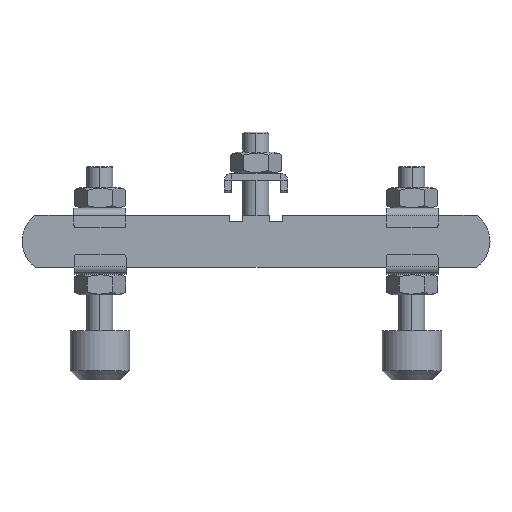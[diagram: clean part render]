
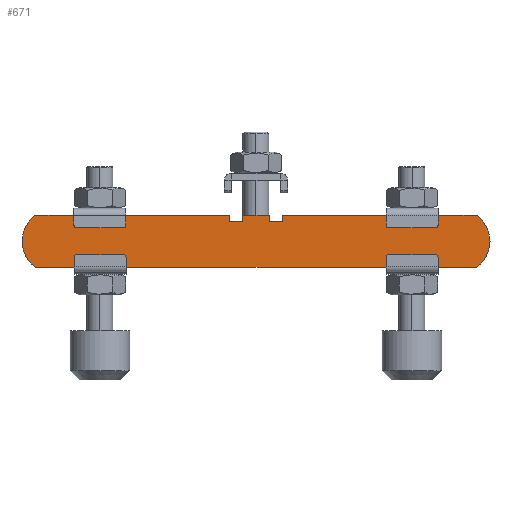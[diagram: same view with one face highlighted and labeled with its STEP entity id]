
A CAD part, top view. The second image highlights one B-rep face of the part: STEP entity #671.
In plain terms, the highlighted planar face has unit normal (0, 0, 1).
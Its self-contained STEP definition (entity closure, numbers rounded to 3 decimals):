
#67 = VERTEX_POINT ( 'NONE', #1707 ) ;
#79 = CARTESIAN_POINT ( 'NONE',  ( -84.633, -10., 0. ) ) ;
#141 = DIRECTION ( 'NONE',  ( -1., 0., 0. ) ) ;
#209 = VECTOR ( 'NONE', #343, 1000. ) ;
#296 = VERTEX_POINT ( 'NONE', #1330 ) ;
#297 = LINE ( 'NONE', #1289, #1677 ) ;
#329 = CARTESIAN_POINT ( 'NONE',  ( 10.125, 10., 0. ) ) ;
#343 = DIRECTION ( 'NONE',  ( 1., 0., 0. ) ) ;
#390 = VECTOR ( 'NONE', #3537, 1000. ) ;
#425 = ORIENTED_EDGE ( 'NONE', *, *, #2006, .T. ) ;
#430 = CARTESIAN_POINT ( 'NONE',  ( 78., 0., 0. ) ) ;
#443 = VECTOR ( 'NONE', #3374, 1000. ) ;
#606 = VECTOR ( 'NONE', #1793, 1000. ) ;
#643 = LINE ( 'NONE', #2220, #3517 ) ;
#665 = EDGE_CURVE ( 'NONE', #2948, #893, #1310, .T. ) ;
#671 = ADVANCED_FACE ( 'NONE', ( #1598 ), #1303, .T. ) ;
#704 = VERTEX_POINT ( 'NONE', #1327 ) ;
#893 = VERTEX_POINT ( 'NONE', #1603 ) ;
#904 = CARTESIAN_POINT ( 'NONE',  ( -84.633, 10., 0. ) ) ;
#923 = DIRECTION ( 'NONE',  ( 0., 1., 0. ) ) ;
#952 = LINE ( 'NONE', #3284, #606 ) ;
#985 = ORIENTED_EDGE ( 'NONE', *, *, #3428, .F. ) ;
#1050 = CIRCLE ( 'NONE', #2485, 12. ) ;
#1139 = CARTESIAN_POINT ( 'NONE',  ( 84.633, 10., 0. ) ) ;
#1159 = CIRCLE ( 'NONE', #3258, 12. ) ;
#1164 = LINE ( 'NONE', #329, #390 ) ;
#1174 = AXIS2_PLACEMENT_3D ( 'NONE', #3564, #1602, #3310 ) ;
#1233 = DIRECTION ( 'NONE',  ( 0., -1., 0. ) ) ;
#1244 = CARTESIAN_POINT ( 'NONE',  ( -5.125, 10., 0. ) ) ;
#1252 = CARTESIAN_POINT ( 'NONE',  ( -84.633, 10., 0. ) ) ;
#1289 = CARTESIAN_POINT ( 'NONE',  ( 5.125, 10., 0. ) ) ;
#1303 = PLANE ( 'NONE',  #2722 ) ;
#1310 = LINE ( 'NONE', #1505, #443 ) ;
#1327 = CARTESIAN_POINT ( 'NONE',  ( 5.125, 7.5, 0. ) ) ;
#1330 = CARTESIAN_POINT ( 'NONE',  ( 90., 0., 0. ) ) ;
#1420 = EDGE_CURVE ( 'NONE', #3168, #3462, #2942, .T. ) ;
#1505 = CARTESIAN_POINT ( 'NONE',  ( -84.633, -10., 0. ) ) ;
#1524 = VERTEX_POINT ( 'NONE', #1139 ) ;
#1533 = CARTESIAN_POINT ( 'NONE',  ( 10.125, 7.5, 0. ) ) ;
#1538 = ORIENTED_EDGE ( 'NONE', *, *, #1945, .T. ) ;
#1595 = ORIENTED_EDGE ( 'NONE', *, *, #665, .T. ) ;
#1598 = FACE_OUTER_BOUND ( 'NONE', #2502, .T. ) ;
#1602 = DIRECTION ( 'NONE',  ( 0., 0., 1. ) ) ;
#1603 = CARTESIAN_POINT ( 'NONE',  ( 84.633, -10., 0. ) ) ;
#1677 = VECTOR ( 'NONE', #1233, 1000. ) ;
#1693 = EDGE_CURVE ( 'NONE', #2205, #2948, #2979, .T. ) ;
#1707 = CARTESIAN_POINT ( 'NONE',  ( 10.125, 7.5, 0. ) ) ;
#1714 = ORIENTED_EDGE ( 'NONE', *, *, #1944, .F. ) ;
#1740 = DIRECTION ( 'NONE',  ( -1., 0., 0. ) ) ;
#1793 = DIRECTION ( 'NONE',  ( 0., -1., 0. ) ) ;
#1794 = VECTOR ( 'NONE', #3200, 1000. ) ;
#1804 = ORIENTED_EDGE ( 'NONE', *, *, #3452, .F. ) ;
#1877 = LINE ( 'NONE', #1533, #1794 ) ;
#1896 = DIRECTION ( 'NONE',  ( 1., 0., 0. ) ) ;
#1908 = VECTOR ( 'NONE', #1740, 1000. ) ;
#1944 = EDGE_CURVE ( 'NONE', #704, #67, #1877, .T. ) ;
#1945 = EDGE_CURVE ( 'NONE', #893, #296, #1050, .T. ) ;
#2006 = EDGE_CURVE ( 'NONE', #2888, #2205, #2521, .T. ) ;
#2065 = LINE ( 'NONE', #3241, #209 ) ;
#2071 = DIRECTION ( 'NONE',  ( 0., 0., 1. ) ) ;
#2111 = ORIENTED_EDGE ( 'NONE', *, *, #3040, .F. ) ;
#2205 = VERTEX_POINT ( 'NONE', #904 ) ;
#2220 = CARTESIAN_POINT ( 'NONE',  ( -84.633, 10., 0. ) ) ;
#2262 = EDGE_CURVE ( 'NONE', #1524, #3422, #643, .T. ) ;
#2364 = EDGE_CURVE ( 'NONE', #2482, #3462, #2586, .T. ) ;
#2368 = CARTESIAN_POINT ( 'NONE',  ( 10.125, 10., 0. ) ) ;
#2469 = CARTESIAN_POINT ( 'NONE',  ( -10.125, 10., 0. ) ) ;
#2482 = VERTEX_POINT ( 'NONE', #3568 ) ;
#2485 = AXIS2_PLACEMENT_3D ( 'NONE', #430, #2071, #141 ) ;
#2502 = EDGE_LOOP ( 'NONE', ( #1804, #1714, #985, #3480, #3244, #2571, #2111, #425, #3268, #1595, #1538, #3243, #3068 ) ) ;
#2521 = LINE ( 'NONE', #1252, #3445 ) ;
#2571 = ORIENTED_EDGE ( 'NONE', *, *, #3083, .F. ) ;
#2586 = LINE ( 'NONE', #1244, #3419 ) ;
#2619 = DIRECTION ( 'NONE',  ( -1., 0., 0. ) ) ;
#2722 = AXIS2_PLACEMENT_3D ( 'NONE', #3425, #2953, #1896 ) ;
#2876 = CARTESIAN_POINT ( 'NONE',  ( 5.125, 10., 0. ) ) ;
#2888 = VERTEX_POINT ( 'NONE', #2469 ) ;
#2931 = DIRECTION ( 'NONE',  ( -1., 0., 0. ) ) ;
#2942 = LINE ( 'NONE', #2988, #1908 ) ;
#2948 = VERTEX_POINT ( 'NONE', #79 ) ;
#2953 = DIRECTION ( 'NONE',  ( 0., 0., 1. ) ) ;
#2979 = CIRCLE ( 'NONE', #1174, 12. ) ;
#2988 = CARTESIAN_POINT ( 'NONE',  ( -84.633, 10., 0. ) ) ;
#2996 = CARTESIAN_POINT ( 'NONE',  ( 78., 0., 0. ) ) ;
#3040 = EDGE_CURVE ( 'NONE', #2888, #3536, #952, .T. ) ;
#3052 = DIRECTION ( 'NONE',  ( -1., 0., 0. ) ) ;
#3068 = ORIENTED_EDGE ( 'NONE', *, *, #2262, .T. ) ;
#3083 = EDGE_CURVE ( 'NONE', #3536, #2482, #2065, .T. ) ;
#3168 = VERTEX_POINT ( 'NONE', #2876 ) ;
#3200 = DIRECTION ( 'NONE',  ( 1., 0., 0. ) ) ;
#3241 = CARTESIAN_POINT ( 'NONE',  ( -10.125, 7.5, 0. ) ) ;
#3243 = ORIENTED_EDGE ( 'NONE', *, *, #3449, .T. ) ;
#3244 = ORIENTED_EDGE ( 'NONE', *, *, #2364, .F. ) ;
#3258 = AXIS2_PLACEMENT_3D ( 'NONE', #2996, #3465, #2931 ) ;
#3268 = ORIENTED_EDGE ( 'NONE', *, *, #1693, .T. ) ;
#3270 = CARTESIAN_POINT ( 'NONE',  ( -5.125, 10., 0. ) ) ;
#3284 = CARTESIAN_POINT ( 'NONE',  ( -10.125, 10., 0. ) ) ;
#3310 = DIRECTION ( 'NONE',  ( 1., 0., 0. ) ) ;
#3374 = DIRECTION ( 'NONE',  ( 1., 0., 0. ) ) ;
#3419 = VECTOR ( 'NONE', #923, 1000. ) ;
#3422 = VERTEX_POINT ( 'NONE', #2368 ) ;
#3425 = CARTESIAN_POINT ( 'NONE',  ( -78., 0., 0. ) ) ;
#3428 = EDGE_CURVE ( 'NONE', #3168, #704, #297, .T. ) ;
#3445 = VECTOR ( 'NONE', #2619, 1000. ) ;
#3449 = EDGE_CURVE ( 'NONE', #296, #1524, #1159, .T. ) ;
#3452 = EDGE_CURVE ( 'NONE', #67, #3422, #1164, .T. ) ;
#3462 = VERTEX_POINT ( 'NONE', #3270 ) ;
#3465 = DIRECTION ( 'NONE',  ( 0., 0., 1. ) ) ;
#3480 = ORIENTED_EDGE ( 'NONE', *, *, #1420, .T. ) ;
#3517 = VECTOR ( 'NONE', #3052, 1000. ) ;
#3536 = VERTEX_POINT ( 'NONE', #3540 ) ;
#3537 = DIRECTION ( 'NONE',  ( 0., 1., 0. ) ) ;
#3540 = CARTESIAN_POINT ( 'NONE',  ( -10.125, 7.5, 0. ) ) ;
#3564 = CARTESIAN_POINT ( 'NONE',  ( -78., 0., 0. ) ) ;
#3568 = CARTESIAN_POINT ( 'NONE',  ( -5.125, 7.5, 0. ) ) ;
